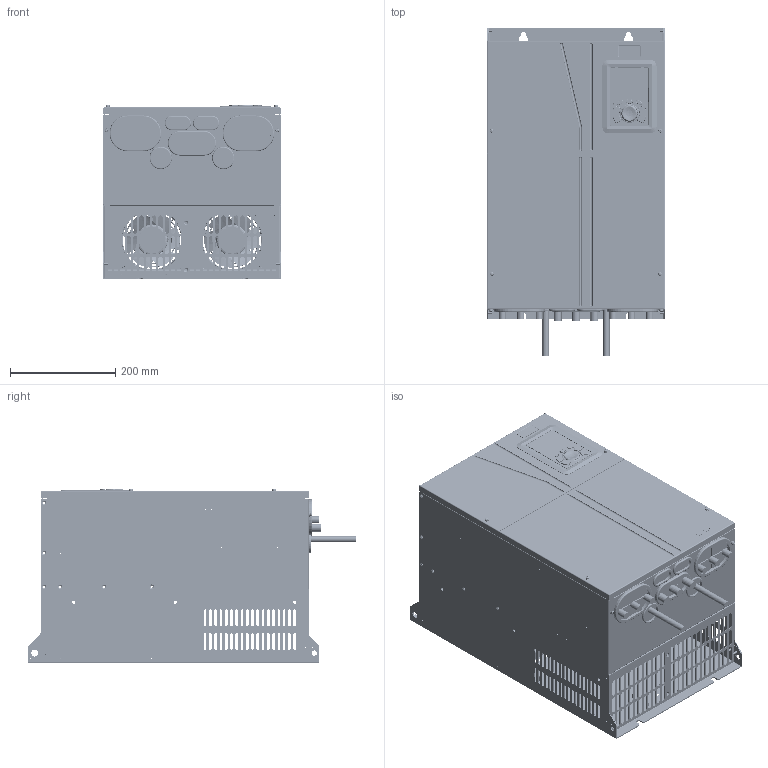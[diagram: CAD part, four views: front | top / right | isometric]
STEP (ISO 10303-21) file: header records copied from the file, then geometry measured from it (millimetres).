
FILE_DESCRIPTION((''),'2;1');
FILE_NAME('ST600-110G3_ASM','2019-07-03T',('Administrator'),(''),'PRO/ENGINEER BY PARAMETRIC TECHNOLOGY CORPORATION, 2010100','PRO/ENGINEER BY PARAMETRIC TECHNOLOGY CORPORATION, 2010100','');
FILE_SCHEMA(('CONFIG_CONTROL_DESIGN'));
Products named in the file (135): 80310543; S-M4-ZC; S-M6-ZC; 80310543_ASM; 80385049; YMD-55-0D8-SL; BSO-M4-23-ZC; BSO-3D5M3-16-ZC; 80385049_ASM; 80482637; 80482637_ASM; 80385054_ASM; 80482636; 80482636_ASM; 80385050; 80385050_ASM; 80385052; 80385052_ASM; 80385055; 80385055_ASM; 80385056; 80385056_ASM; 80385053; 80385053_ASM; 80385048; GB12617_4_4X10_SL; 61061239_ASM; 80385057; 80385057_ASM; 80384715; NZ-M8-ZC; 80384715_ASM; 80384715SY; 80384717_ASM; 80482418; 80482418_ASM; 80880315; 80384718; BSO-M4-10-ZC; FH-M3-6-ZC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
Assembly tree (370 placements, depth 6):
  ST600-110G3_ASM
    41060086_ASM
      61061239_ASM
        80310543_ASM
          80310543
          S-M4-ZC  x6
          S-M6-ZC  x6
        80385049_ASM
          80385049
          YMD-55-0D8-SL  x2
          BSO-M4-23-ZC  x4
          BSO-3D5M3-16-ZC  x4
        80482637_ASM
          80482637
          S-M4-ZC  x2
        80385054_ASM  x2
        80482636_ASM
          80482636
          S-M4-ZC  x2
        80385050_ASM
          80385050
          S-M4-ZC  x13
        80385052_ASM  x2
          80385052
          S-M4-ZC
        80385055_ASM
          80385055
          S-M4-ZC  x2
        80385056_ASM
          80385056
          S-M4-ZC  x2
        80385053_ASM  x4
          80385053
          S-M4-ZC
        80385048  x5
        GB12617_4_4X10_SL  x58
      80385057_ASM
        80385057
        S-M4-ZC  x10
      80384715_ASM
        80384715
        S-M6-ZC  x9
        NZ-M8-ZC  x2
      80384715SY
      80384717_ASM
      80482418_ASM
        80482418
        YMD-55-0D8-SL  x2
      80880315
      80384718_ASM
        80384718
        S-M4-ZC  x4
        YMD-55-0D8-SL  x2
        BSO-M4-10-ZC  x4
        FH-M3-6-ZC
      80384718SY
      61061122_ASM
        86051186_ASM
          86051186
          YMD-55-0D8-SL  x2
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Bounding box: 338 x 624 x 331 mm (x, y, z)
Volume: 4455147 mm3; surface area: 3881493.2 mm2
Topology: 335 solids, 367 shells, 25858 faces, 68514 edges, 44226 vertices
Faces by surface type: plane 16299, cylinder 6793, cone 1475, torus 548, bspline 471, extrusion 144, sphere 96, revolution 32
Entity records: 449591 total; most frequent: CARTESIAN_POINT 102250, DIRECTION 72631, ORIENTED_EDGE 70196, EDGE_CURVE 35131, AXIS2_PLACEMENT_3D 25233, VERTEX_POINT 22568, VECTOR 22149, LINE 22019
